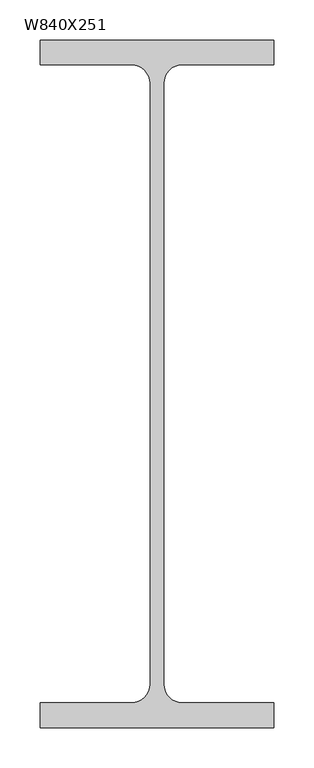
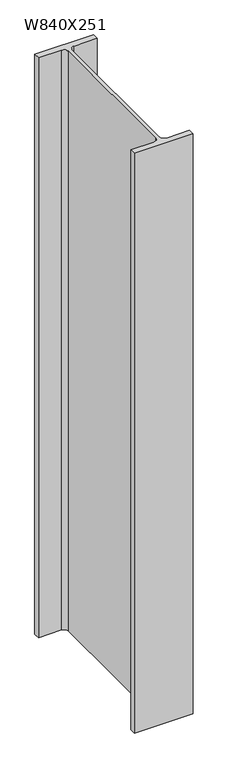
"""IFC4 building model written with IfcOpenShell, lengths in millimetres: column geometry, M_W-Wide Flange-Column : W840X251."""

from ifc_helpers import new_model, si_unit, point, frame_2d, origin, origin_with_axes, place, context, project, spatial, polyline, circle_curve, trimmed, segment, composite_curve, outline, extrude, source, transform, mapped, element, save


def w840x251_1148a0b8(model_context):
    return source(origin(), model_context, "Body", "SweptSolid", [
        extrude(outline(composite_curve([segment(polyline([(146.0, 429.5), (146.0, 398.5), (31.5, 398.5)]), True, "CONTINUOUS"), segment(trimmed(circle_curve(frame_2d((31.5, 375.5)), 23.0), [point((31.5, 398.5))], [point((8.5, 375.5))], True, "CARTESIAN"), True, "CONTINUOUS"), segment(polyline([(8.5, 375.5), (8.5, -375.5)]), True, "CONTINUOUS"), segment(trimmed(circle_curve(frame_2d((31.5, -375.5)), 23.0), [point((8.5, -375.5))], [point((31.5, -398.5))], True, "CARTESIAN"), True, "CONTINUOUS"), segment(polyline([(31.5, -398.5), (146.0, -398.5), (146.0, -429.5), (-146.0, -429.5), (-146.0, -398.5), (-31.5, -398.5)]), True, "CONTINUOUS"), segment(trimmed(circle_curve(frame_2d((-31.5, -375.5)), 23.0), [point((-31.5, -398.5))], [point((-8.5, -375.5))], True, "CARTESIAN"), True, "CONTINUOUS"), segment(polyline([(-8.5, -375.5), (-8.5, 375.5)]), True, "CONTINUOUS"), segment(trimmed(circle_curve(frame_2d((-31.5, 375.5)), 23.0), [point((-8.5, 375.5))], [point((-31.5, 398.5))], True, "CARTESIAN"), True, "CONTINUOUS"), segment(polyline([(-31.5, 398.5), (-146.0, 398.5), (-146.0, 429.5), (146.0, 429.5)]), True, "CONTINUOUS")], self_intersect=False)), origin_with_axes(), (0.0, 0.0, 1.0), 3048.0),
    ])


if __name__ == "__main__":
    model = new_model("IFC4")
    model_context = context("Model", 3, world=origin())
    ifc_project = project(units=[si_unit("LENGTHUNIT", "METRE", prefix="MILLI")], contexts=[model_context])
    site = spatial("IfcSite", under=ifc_project)
    building = spatial("IfcBuilding", under=site)
    placement = place(None, origin())
    w840x251_shape = w840x251_1148a0b8(model_context)
    element("IfcColumn", 1, ObjectType="M_W-Wide Flange-Column : W840X251", at=placement, inside=building, context=model_context, shape_type="MappedRepresentation", body=[
        mapped(w840x251_shape, transform((0.0, 0.0, 0.0), x_axis=(1.0, 0.0, 0.0), y_axis=(0.0, 1.0, 0.0), z_axis=(0.0, 0.0, 1.0))),
    ])
    save(model, "model.ifc")
